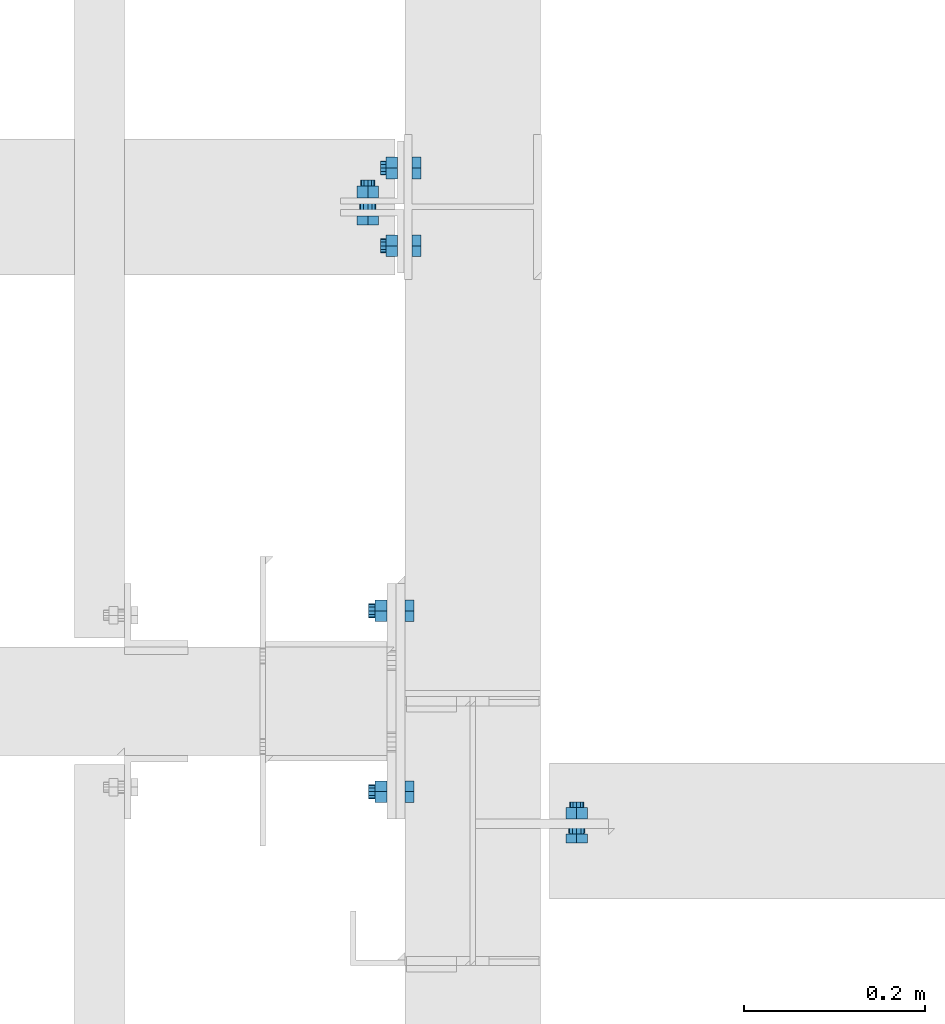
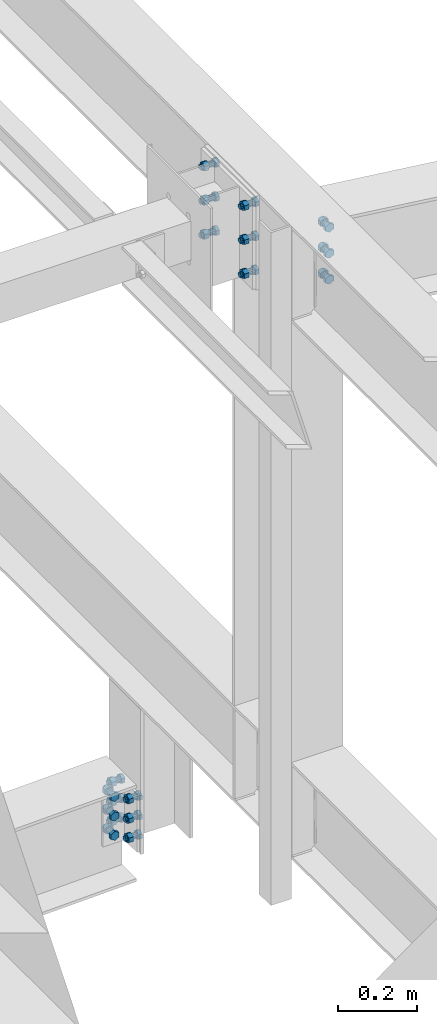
# One storey, part 34 of 3134: 5 mechanical fasteners, 4 elements without a shape of their own.
"""IFC2X3 building model written with IfcOpenShell, lengths in millimetres."""

import ifcopenshell
import ifcopenshell.guid

model = None  # the IFC model being written
_history = None  # IfcOwnerHistory: only IFC2X3 demands one
_inside = {}  # id of a spatial element -> (the spatial element, [elements in it])
_under = {}  # id of a project, library or spatial element -> (it, [spatial elements below it])
_declared = {}  # id of a project -> (the project, [libraries it declares])
_typed = {}  # id of a type object -> (the type object, [elements of that type])
_made_of = {}  # id of a material, layer set ... -> (it, [elements and type objects made of it])


def new_model(schema):
    """Start an empty IFC model of exactly this schema.

    Asked for "IFC4X3", IfcOpenShell would pick the latest addendum, in which some entities
    have other attributes; the version numbers below select the first issue.
    IFC2X3 requires an IfcOwnerHistory on every rooted entity: one is made here for all.
    """
    global model, _history
    if schema == "IFC4X3":
        model = ifcopenshell.file(schema_version=(4, 3, 0, 0))
    else:
        model = ifcopenshell.file(schema=schema)
    _inside.clear()
    _under.clear()
    _declared.clear()
    _typed.clear()
    _made_of.clear()
    _history = None
    if model.schema == "IFC2X3":
        org = make("IfcOrganization", Name="unknown")
        user = make(
            "IfcPersonAndOrganization",
            ThePerson=make("IfcPerson", FamilyName="unknown"),
            TheOrganization=org,
        )
        app = make(
            "IfcApplication",
            ApplicationDeveloper=org,
            Version="unknown",
            ApplicationFullName="unknown",
            ApplicationIdentifier="unknown",
        )
        _history = make(
            "IfcOwnerHistory",
            OwningUser=user,
            OwningApplication=app,
            ChangeAction="ADDED",
            CreationDate=0,
        )
    return model


def make(cls, **values):
    """One entity of the class cls with the attributes given. An attribute that is None is left unset."""
    return model.create_entity(
        cls, **{name: value for name, value in values.items() if value is not None}
    )


def rooted(cls, **values):
    """An entity with a GlobalId (a new one), such as an element, a storey or a relation."""
    return make(cls, GlobalId=ifcopenshell.guid.new(), OwnerHistory=_history, **values)


def si_unit(unit_type, name, prefix=None):
    """IfcSIUnit, for example si_unit("LENGTHUNIT", "METRE", prefix="MILLI")."""
    return make("IfcSIUnit", UnitType=unit_type, Prefix=prefix, Name=name)


def assignment(units):
    """IfcUnitAssignment: the units of a project."""
    return None if units is None else make("IfcUnitAssignment", Units=units)


def point(xyz):
    """IfcCartesianPoint."""
    return None if xyz is None else make("IfcCartesianPoint", Coordinates=xyz)


def direction(xyz):
    """IfcDirection."""
    return None if xyz is None else make("IfcDirection", DirectionRatios=xyz)


def frame(location, z_axis=None, x_axis=None):
    """IfcAxis2Placement3D, a coordinate frame: its origin and axes. An axis left out is left unset."""
    return make(
        "IfcAxis2Placement3D",
        Location=point(location),
        Axis=direction(z_axis),
        RefDirection=direction(x_axis),
    )


def origin_with_axes():
    """The frame at (0, 0, 0) with the z axis (0, 0, 1) and the x axis (1, 0, 0) written out."""
    return frame((0.0, 0.0, 0.0), z_axis=(0.0, 0.0, 1.0), x_axis=(1.0, 0.0, 0.0))


def place(relative_to, where):
    """IfcLocalPlacement: puts the frame where relative to a parent placement (None: the world)."""
    return make(
        "IfcLocalPlacement", PlacementRelTo=relative_to, RelativePlacement=where
    )


def context(
    kind, dimensions, precision=None, world=None, true_north=None, identifier=None
):
    """IfcGeometricRepresentationContext, for example the 3D "Model" context."""
    return make(
        "IfcGeometricRepresentationContext",
        ContextIdentifier=identifier,
        ContextType=kind,
        CoordinateSpaceDimension=dimensions,
        Precision=precision,
        WorldCoordinateSystem=world,
        TrueNorth=true_north,
    )


def subcontext(parent, identifier, kind, view, scale=None):
    """IfcGeometricRepresentationSubContext, for example "Body" below "Model"."""
    return make(
        "IfcGeometricRepresentationSubContext",
        ContextIdentifier=identifier,
        ContextType=kind,
        ParentContext=parent,
        TargetScale=scale,
        TargetView=view,
    )


def project(units=None, contexts=None):
    """IfcProject with its units and contexts."""
    return rooted(
        "IfcProject",
        Name="project",
        RepresentationContexts=contexts,
        UnitsInContext=assignment(units),
    )


def spatial(cls, under=None, at=None, **own):
    """A site, building, storey or space (cls), placed at a placement, below another one or the project."""
    s = rooted(cls, ObjectPlacement=at, **own)
    if under is not None:
        _under.setdefault(under.id(), (under, []))[1].append(s)
    return s


def faces_of(points, faces, orient=None, outer=None):
    """IfcFace entities. A face is a list of loops; a loop is a list of indices into points, from 0.

    orient and outer hold one flag for each loop. By default every Orientation is true, the
    first loop of a face is its IfcFaceOuterBound and the others are IfcFaceBound.
    """
    made = []
    for i, loops in enumerate(faces):
        bounds = []
        for j, loop in enumerate(loops):
            is_outer = j == 0 if outer is None else outer[i][j]
            bounds.append(
                make(
                    "IfcFaceOuterBound" if is_outer else "IfcFaceBound",
                    Bound=make("IfcPolyLoop", Polygon=[points[k] for k in loop]),
                    Orientation=True if orient is None else orient[i][j],
                )
            )
        made.append(make("IfcFace", Bounds=bounds))
    return made


def faceted_brep(points, faces, orient=None, outer=None, voids=None):
    """IfcFacetedBrep: a solid bounded by flat faces; with voids (closed shells), ...WithVoids."""
    shared = [point(p) for p in points]
    hull = make("IfcClosedShell", CfsFaces=faces_of(shared, faces, orient, outer))
    if voids is None:
        return make("IfcFacetedBrep", Outer=hull)
    return make(
        "IfcFacetedBrepWithVoids",
        Outer=hull,
        Voids=[
            make(cls, CfsFaces=faces_of(shared, fs, o, b)) for cls, fs, o, b in voids
        ],
    )


def shape(context_of_items, identifier, shape_type, items):
    """IfcShapeRepresentation: the items that make up one representation, for example the "Body"."""
    return make(
        "IfcShapeRepresentation",
        ContextOfItems=context_of_items,
        RepresentationIdentifier=identifier,
        RepresentationType=shape_type,
        Items=items,
    )


def source(mapping_origin, context_of_items, identifier, shape_type, items):
    """IfcRepresentationMap: a shape defined once, which mapped items show again and again."""
    return make(
        "IfcRepresentationMap",
        MappingOrigin=mapping_origin,
        MappedRepresentation=shape(context_of_items, identifier, shape_type, items),
    )


def transform(
    local_origin,
    x_axis=None,
    y_axis=None,
    z_axis=None,
    scale=None,
    scale2=None,
    scale3=None,
    uniform=True,
):
    """IfcCartesianTransformationOperator3D, or its non-uniform kind. x_axis, y_axis, z_axis: its Axis1, 2, 3."""
    if uniform:
        return make(
            "IfcCartesianTransformationOperator3D",
            Axis1=direction(x_axis),
            Axis2=direction(y_axis),
            LocalOrigin=point(local_origin),
            Scale=scale,
            Axis3=direction(z_axis),
        )
    return make(
        "IfcCartesianTransformationOperator3DnonUniform",
        Axis1=direction(x_axis),
        Axis2=direction(y_axis),
        LocalOrigin=point(local_origin),
        Scale=scale,
        Axis3=direction(z_axis),
        Scale2=scale2,
        Scale3=scale3,
    )


def mapped(mapping_source, mapping_target):
    """IfcMappedItem: shows the shape of a source again, moved by a transform."""
    return make(
        "IfcMappedItem", MappingSource=mapping_source, MappingTarget=mapping_target
    )


def material(Name=None, Category=None):
    """IfcMaterial."""
    return make("IfcMaterial", Name=Name, Category=Category)


def made_of(thing, what):
    """Note that an element or type object is made of a material, layer set ...; save() writes the relation."""
    if what is not None:
        _made_of.setdefault(what.id(), (what, []))[1].append(thing)
    return thing


def type_object(cls, material=None, **own):
    """A type object (cls), such as IfcWallType, which elements share."""
    return made_of(rooted(cls, **own), material)


def element(
    cls,
    number,
    at=None,
    inside=None,
    cuts=None,
    type_object=None,
    material=None,
    context=None,
    identifier="Body",
    shape_type=None,
    held_by="IfcProductDefinitionShape",
    body=None,
    shapes=None,
    **own,
):
    """One element of the class cls, such as IfcWall. Its Tag is "e" and its number.

    at: its placement. inside: the storey or other place that contains it. cuts: it is an
    opening in that element (IfcRelVoidsElement). A single representation is given by context,
    identifier, shape_type and body (its items); several are given by shapes. held_by: the class
    of the entity that holds the representations. save() writes the other relations.
    """
    e = rooted(cls, Tag="e%d" % number, ObjectPlacement=at, **own)
    if body is not None:
        shapes = [shape(context, identifier, shape_type, body)]
    if shapes is not None:
        e.Representation = make(held_by, Representations=shapes)
    if inside is not None:
        _inside.setdefault(inside.id(), (inside, []))[1].append(e)
    if cuts is not None:
        rooted(
            "IfcRelVoidsElement", RelatingBuildingElement=cuts, RelatedOpeningElement=e
        )
    if type_object is not None:
        _typed.setdefault(type_object.id(), (type_object, []))[1].append(e)
    return made_of(e, material)


def aggregate(whole, parts):
    """IfcRelAggregates: a whole, such as a stair, and the parts it consists of."""
    return rooted("IfcRelAggregates", RelatingObject=whole, RelatedObjects=parts)


def save(model, path):
    """Write the relations noted so far, then the file.

    IfcRelAggregates (storeys below a building ...), IfcRelContainedInSpatialStructure (elements
    in a storey), IfcRelDefinesByType, IfcRelAssociatesMaterial and IfcRelDeclares: one each for
    every whole, place, type object, material and project.
    """
    for whole, parts in _under.values():
        aggregate(whole, parts)
    for where, things in _inside.values():
        rooted(
            "IfcRelContainedInSpatialStructure",
            RelatedElements=things,
            RelatingStructure=where,
        )
    for kind, things in _typed.values():
        rooted("IfcRelDefinesByType", RelatedObjects=things, RelatingType=kind)
    for what, things in _made_of.values():
        rooted("IfcRelAssociatesMaterial", RelatedObjects=things, RelatingMaterial=what)
    for by, libraries in _declared.values():
        rooted("IfcRelDeclares", RelatingContext=by, RelatedDefinitions=libraries)
    model.write(path)


model = new_model("IFC2X3")

# Units and contexts
model_context = context("Model", 3, precision=1e-05, world=origin_with_axes())
body_context = subcontext(model_context, "Body", "Model", "MODEL_VIEW")
ifc_project = project(units=[si_unit("LENGTHUNIT", "METRE", prefix="MILLI"), si_unit("AREAUNIT", "SQUARE_METRE"), si_unit("VOLUMEUNIT", "CUBIC_METRE"), si_unit("MASSUNIT", "GRAM", prefix="KILO"), si_unit("TIMEUNIT", "SECOND"), si_unit("PLANEANGLEUNIT", "RADIAN"), si_unit("SOLIDANGLEUNIT", "STERADIAN"), si_unit("THERMODYNAMICTEMPERATUREUNIT", "DEGREE_CELSIUS"), si_unit("LUMINOUSINTENSITYUNIT", "LUMEN")], contexts=[model_context])

# Site, building, storey
site_placement = place(None, origin_with_axes())
site = spatial("IfcSite", under=ifc_project, at=site_placement, CompositionType="ELEMENT")
building_placement = place(site_placement, origin_with_axes())
building = spatial("IfcBuilding", under=site, at=building_placement, Name="Undefined", CompositionType="ELEMENT")
storey_placement = place(building_placement, origin_with_axes())
storey = spatial("IfcBuildingStorey", under=building, at=storey_placement, Name="Undefined", CompositionType="ELEMENT", Elevation=0.0)

# Assembly, mechanical fastener
assembly_1_placement = place(storey_placement, origin_with_axes())
assembly_1 = element("IfcElementAssembly", 1, at=assembly_1_placement, inside=storey, Name="300", AssemblyPlace="NOTDEFINED", PredefinedType="RIGID_FRAME")
ifc_material = material(Name="8.8")
mechanical_fastener_type = type_object("IfcMechanicalFastenerType", Name="Bolt assembly")
shared_shape_1 = source(origin_with_axes(), body_context, "Body", "Brep", [
    faceted_brep([(13.856406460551, -30.0, 0.0), (6.92820323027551, -30.0, 12.0), (-6.92820323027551, -30.0, 12.0), (-13.856406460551, -30.0, 1.69692038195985e-15), (-6.92820323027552, -30.0, -12.0), (6.9282032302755, -30.0, -12.0), (6.9282032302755, -20.0, -12.0), (-6.92820323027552, -20.0, -12.0), (-13.856406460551, -20.0, 1.69692038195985e-15), (-6.92820323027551, -20.0, 12.0), (6.92820323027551, -20.0, 12.0), (13.856406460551, -20.0, 0.0), (8.0, -20.0, 0.0), (6.92820323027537, -20.0, 4.00000000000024), (3.99999999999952, -20.0, 6.92820323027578), (-8.29068785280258e-13, -20.0, 8.0), (-4.00000000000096, -20.0, 6.92820323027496), (-6.9282032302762, -20.0, 3.99999999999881), (-8.0, -20.0, -1.65813757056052e-12), (-6.92820323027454, -20.0, -4.00000000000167), (-3.99999999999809, -20.0, -6.92820323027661), (2.47832457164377e-12, -20.0, -8.0), (4.00000000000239, -20.0, -6.92820323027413), (6.92820323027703, -20.0, -3.99999999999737), (6.92820323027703, 20.0, -3.99999999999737), (4.00000000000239, 20.0, -6.92820323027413), (2.47832457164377e-12, 20.0, -8.0), (-3.99999999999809, 20.0, -6.92820323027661), (-6.92820323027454, 20.0, -4.00000000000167), (-8.0, 20.0, -1.65813757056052e-12), (-6.9282032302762, 20.0, 3.99999999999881), (-4.00000000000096, 20.0, 6.92820323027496), (-8.29068785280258e-13, 20.0, 8.0), (3.99999999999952, 20.0, 6.92820323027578), (6.92820323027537, 20.0, 4.00000000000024), (8.0, 20.0, 0.0), (13.856406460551, 0.0, 0.0), (6.92820323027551, 0.0, 12.0), (-6.92820323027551, 0.0, 12.0), (-13.856406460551, 0.0, 1.69692038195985e-15), (-6.92820323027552, 0.0, -12.0), (6.9282032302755, 0.0, -12.0), (6.9282032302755, 12.9999996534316, -12.0), (-6.92820323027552, 12.9999996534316, -12.0), (-13.856406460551, 12.9999996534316, 1.69692038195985e-15), (-6.92820323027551, 12.9999996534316, 12.0), (6.92820323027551, 12.9999996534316, 12.0), (13.856406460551, 12.9999996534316, 0.0)], [[[0, 1, 2, 3, 4, 5]], [[6, 7, 8, 9, 10, 11]], [[0, 11, 10, 1]], [[1, 10, 9, 2]], [[2, 9, 8, 3]], [[3, 8, 7, 4]], [[4, 7, 6, 5]], [[5, 6, 11, 0]], [[12, 13, 14, 15, 16, 17, 18, 19, 20, 21, 22, 23]], [[24, 25, 26, 27, 28, 29, 30, 31, 32, 33, 34, 35]], [[12, 35, 34, 13]], [[13, 34, 33, 14]], [[14, 33, 32, 15]], [[15, 32, 31, 16]], [[16, 31, 30, 17]], [[17, 30, 29, 18]], [[18, 29, 28, 19]], [[19, 28, 27, 20]], [[20, 27, 26, 21]], [[21, 26, 25, 22]], [[22, 25, 24, 23]], [[23, 24, 35, 12]], [[36, 37, 38, 39, 40, 41]], [[42, 43, 44, 45, 46, 47]], [[36, 47, 46, 37]], [[37, 46, 45, 38]], [[38, 45, 44, 39]], [[39, 44, 43, 40]], [[40, 43, 42, 41]], [[41, 42, 47, 36]]]),
    faceted_brep([(9.0, -10.1000003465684, 0.0), (7.79422863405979, -10.1000003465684, 4.50000000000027), (4.49999999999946, -10.1000003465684, 7.79422863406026), (-9.3270238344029e-13, -10.1000003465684, 9.0), (-4.50000000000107, -10.1000003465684, 7.79422863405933), (-7.79422863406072, -10.1000003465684, 4.49999999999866), (-9.0, -10.1000003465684, -1.86540476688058e-12), (-7.79422863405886, -10.1000003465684, -4.50000000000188), (-4.49999999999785, -10.1000003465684, -7.79422863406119), (2.78811514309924e-12, -10.1000003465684, -9.0), (4.50000000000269, -10.1000003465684, -7.7942286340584), (7.79422863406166, -10.1000003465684, -4.49999999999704), (7.79422863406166, -3.46568413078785e-07, -4.49999999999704), (4.50000000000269, -3.46568413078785e-07, -7.7942286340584), (2.78811514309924e-12, -3.46568413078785e-07, -9.0), (-4.49999999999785, -3.46568413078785e-07, -7.79422863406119), (-7.79422863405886, -3.46568413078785e-07, -4.50000000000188), (-9.0, -3.46568413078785e-07, -1.86540476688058e-12), (-7.79422863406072, -3.46568413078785e-07, 4.49999999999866), (-4.50000000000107, -3.46568413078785e-07, 7.79422863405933), (-9.3270238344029e-13, -3.46568413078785e-07, 9.0), (4.49999999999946, -3.46568413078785e-07, 7.79422863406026), (7.79422863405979, -3.46568413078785e-07, 4.50000000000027), (9.0, -3.46568413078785e-07, 0.0), (9.0, -19.9, 0.0), (7.79422863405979, -19.9, 4.50000000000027), (4.49999999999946, -19.9, 7.79422863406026), (-9.3270238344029e-13, -19.9, 9.0), (-4.50000000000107, -19.9, 7.79422863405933), (-7.79422863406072, -19.9, 4.49999999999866), (-9.0, -19.9, -1.86540476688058e-12), (-7.79422863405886, -19.9, -4.50000000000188), (-4.49999999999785, -19.9, -7.79422863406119), (2.78811514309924e-12, -19.9, -9.0), (4.50000000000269, -19.9, -7.7942286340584), (7.79422863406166, -19.9, -4.49999999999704), (7.79422863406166, -9.89999997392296, -4.49999999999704), (4.50000000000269, -9.89999997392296, -7.7942286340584), (2.78811514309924e-12, -9.89999997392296, -9.0), (-4.49999999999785, -9.89999997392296, -7.79422863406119), (-7.79422863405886, -9.89999997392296, -4.50000000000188), (-9.0, -9.89999997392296, -1.86540476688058e-12), (-7.79422863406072, -9.89999997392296, 4.49999999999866), (-4.50000000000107, -9.89999997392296, 7.79422863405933), (-9.3270238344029e-13, -9.89999997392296, 9.0), (4.49999999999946, -9.89999997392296, 7.79422863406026), (7.79422863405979, -9.89999997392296, 4.50000000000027), (9.0, -9.89999997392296, 0.0)], [[[0, 1, 2, 3, 4, 5, 6, 7, 8, 9, 10, 11]], [[12, 13, 14, 15, 16, 17, 18, 19, 20, 21, 22, 23]], [[0, 23, 22, 1]], [[1, 22, 21, 2]], [[2, 21, 20, 3]], [[3, 20, 19, 4]], [[4, 19, 18, 5]], [[5, 18, 17, 6]], [[6, 17, 16, 7]], [[7, 16, 15, 8]], [[8, 15, 14, 9]], [[9, 14, 13, 10]], [[10, 13, 12, 11]], [[11, 12, 23, 0]], [[24, 25, 26, 27, 28, 29, 30, 31, 32, 33, 34, 35]], [[36, 37, 38, 39, 40, 41, 42, 43, 44, 45, 46, 47]], [[24, 47, 46, 25]], [[25, 46, 45, 26]], [[26, 45, 44, 27]], [[27, 44, 43, 28]], [[28, 43, 42, 29]], [[29, 42, 41, 30]], [[30, 41, 40, 31]], [[31, 40, 39, 32]], [[32, 39, 38, 33]], [[33, 38, 37, 34]], [[34, 37, 36, 35]], [[35, 36, 47, 24]]]),
])
mechanical_fastener_1_placement = place(assembly_1_placement, frame((20755.0, 12513.5019072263, 5846.5), z_axis=(0.0, 1.0, 0.0), x_axis=(0.0, 0.0, -1.0)))
mechanical_fastener_1 = element("IfcMechanicalFastener", 2, at=mechanical_fastener_1_placement, type_object=mechanical_fastener_type, material=ifc_material, Name="Bolt assembly", NominalDiameter=16.0, NominalLength=40.0, context=body_context, shape_type="MappedRepresentation", body=[
    mapped(shared_shape_1, transform((0.0, 0.0, -100.0))),
    mapped(shared_shape_1, transform((105.0, 0.0, -100.0))),
    mapped(shared_shape_1, transform((210.0, 0.0, -100.0))),
    mapped(shared_shape_1, transform((0.0, 0.0, 100.0))),
    mapped(shared_shape_1, transform((105.0, 0.0, 100.0))),
    mapped(shared_shape_1, transform((210.0, 0.0, 100.0))),
])
aggregate(assembly_1, [mechanical_fastener_1])

assembly_2_placement = place(storey_placement, origin_with_axes())
assembly_2 = element("IfcElementAssembly", 3, at=assembly_2_placement, inside=storey, Name="300", AssemblyPlace="NOTDEFINED", PredefinedType="RIGID_FRAME")
shared_shape_2 = source(origin_with_axes(), body_context, "Body", "Brep", [
    faceted_brep([(13.856406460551, -13.0499999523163, 0.0), (6.92820323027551, -13.0499999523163, 12.0), (-6.92820323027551, -13.0499999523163, 12.0), (-13.856406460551, -13.0499999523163, 1.69692038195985e-15), (-6.92820323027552, -13.0499999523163, -12.0), (6.9282032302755, -13.0499999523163, -12.0), (6.9282032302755, -3.04999995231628, -12.0), (-6.92820323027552, -3.04999995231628, -12.0), (-13.856406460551, -3.04999995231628, 1.69692038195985e-15), (-6.92820323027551, -3.04999995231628, 12.0), (6.92820323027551, -3.04999995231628, 12.0), (13.856406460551, -3.04999995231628, 0.0), (8.0, -3.04999995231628, 0.0), (6.92820323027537, -3.04999995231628, 4.00000000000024), (3.99999999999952, -3.04999995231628, 6.92820323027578), (-8.29068785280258e-13, -3.04999995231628, 8.0), (-4.00000000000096, -3.04999995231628, 6.92820323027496), (-6.9282032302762, -3.04999995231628, 3.99999999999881), (-8.0, -3.04999995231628, -1.65813757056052e-12), (-6.92820323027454, -3.04999995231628, -4.00000000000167), (-3.99999999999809, -3.04999995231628, -6.92820323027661), (2.47832457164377e-12, -3.04999995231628, -8.0), (4.00000000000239, -3.04999995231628, -6.92820323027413), (6.92820323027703, -3.04999995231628, -3.99999999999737), (6.92820323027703, 31.9500000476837, -3.99999999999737), (4.00000000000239, 31.9500000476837, -6.92820323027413), (2.47832457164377e-12, 31.9500000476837, -8.0), (-3.99999999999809, 31.9500000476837, -6.92820323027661), (-6.92820323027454, 31.9500000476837, -4.00000000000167), (-8.0, 31.9500000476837, -1.65813757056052e-12), (-6.9282032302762, 31.9500000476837, 3.99999999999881), (-4.00000000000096, 31.9500000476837, 6.92820323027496), (-8.29068785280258e-13, 31.9500000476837, 8.0), (3.99999999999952, 31.9500000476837, 6.92820323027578), (6.92820323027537, 31.9500000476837, 4.00000000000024), (8.0, 31.9500000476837, 0.0), (13.856406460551, 13.0500000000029, 0.0), (6.92820323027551, 13.0500000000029, 12.0), (-6.92820323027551, 13.0500000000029, 12.0), (-13.856406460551, 13.0500000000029, 1.69692038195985e-15), (-6.92820323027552, 13.0500000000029, -12.0), (6.9282032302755, 13.0500000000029, -12.0), (6.9282032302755, 26.0500000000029, -12.0), (-6.92820323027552, 26.0500000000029, -12.0), (-13.856406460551, 26.0500000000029, 1.69692038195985e-15), (-6.92820323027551, 26.0500000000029, 12.0), (6.92820323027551, 26.0500000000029, 12.0), (13.856406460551, 26.0500000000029, 0.0)], [[[0, 1, 2, 3, 4, 5]], [[6, 7, 8, 9, 10, 11]], [[0, 11, 10, 1]], [[1, 10, 9, 2]], [[2, 9, 8, 3]], [[3, 8, 7, 4]], [[4, 7, 6, 5]], [[5, 6, 11, 0]], [[12, 13, 14, 15, 16, 17, 18, 19, 20, 21, 22, 23]], [[24, 25, 26, 27, 28, 29, 30, 31, 32, 33, 34, 35]], [[12, 35, 34, 13]], [[13, 34, 33, 14]], [[14, 33, 32, 15]], [[15, 32, 31, 16]], [[16, 31, 30, 17]], [[17, 30, 29, 18]], [[18, 29, 28, 19]], [[19, 28, 27, 20]], [[20, 27, 26, 21]], [[21, 26, 25, 22]], [[22, 25, 24, 23]], [[23, 24, 35, 12]], [[36, 37, 38, 39, 40, 41]], [[42, 43, 44, 45, 46, 47]], [[36, 47, 46, 37]], [[37, 46, 45, 38]], [[38, 45, 44, 39]], [[39, 44, 43, 40]], [[40, 43, 42, 41]], [[41, 42, 47, 36]]]),
    faceted_brep([(9.0, 2.95000000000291, 0.0), (7.79422863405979, 2.95000000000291, 4.50000000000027), (4.49999999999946, 2.95000000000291, 7.79422863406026), (-9.3270238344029e-13, 2.95000000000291, 9.0), (-4.50000000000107, 2.95000000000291, 7.79422863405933), (-7.79422863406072, 2.95000000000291, 4.49999999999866), (-9.0, 2.95000000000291, -1.86540476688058e-12), (-7.79422863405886, 2.95000000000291, -4.50000000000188), (-4.49999999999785, 2.95000000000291, -7.79422863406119), (2.78811514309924e-12, 2.95000000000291, -9.0), (4.50000000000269, 2.95000000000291, -7.7942286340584), (7.79422863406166, 2.95000000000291, -4.49999999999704), (7.79422863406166, 13.0500000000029, -4.49999999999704), (4.50000000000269, 13.0500000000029, -7.7942286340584), (2.78811514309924e-12, 13.0500000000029, -9.0), (-4.49999999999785, 13.0500000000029, -7.79422863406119), (-7.79422863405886, 13.0500000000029, -4.50000000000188), (-9.0, 13.0500000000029, -1.86540476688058e-12), (-7.79422863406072, 13.0500000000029, 4.49999999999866), (-4.50000000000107, 13.0500000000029, 7.79422863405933), (-9.3270238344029e-13, 13.0500000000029, 9.0), (4.49999999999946, 13.0500000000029, 7.79422863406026), (7.79422863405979, 13.0500000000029, 4.50000000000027), (9.0, 13.0500000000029, 0.0), (9.0, -2.94999995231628, 0.0), (7.79422863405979, -2.94999995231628, 4.50000000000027), (4.49999999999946, -2.94999995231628, 7.79422863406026), (-9.3270238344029e-13, -2.94999995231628, 9.0), (-4.50000000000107, -2.94999995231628, 7.79422863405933), (-7.79422863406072, -2.94999995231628, 4.49999999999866), (-9.0, -2.94999995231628, -1.86540476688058e-12), (-7.79422863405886, -2.94999995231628, -4.50000000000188), (-4.49999999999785, -2.94999995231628, -7.79422863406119), (2.78811514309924e-12, -2.94999995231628, -9.0), (4.50000000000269, -2.94999995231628, -7.7942286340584), (7.79422863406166, -2.94999995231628, -4.49999999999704), (7.79422863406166, 3.14999995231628, -4.49999999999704), (4.50000000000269, 3.14999995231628, -7.7942286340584), (2.78811514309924e-12, 3.14999995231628, -9.0), (-4.49999999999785, 3.14999995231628, -7.79422863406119), (-7.79422863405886, 3.14999995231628, -4.50000000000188), (-9.0, 3.14999995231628, -1.86540476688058e-12), (-7.79422863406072, 3.14999995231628, 4.49999999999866), (-4.50000000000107, 3.14999995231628, 7.79422863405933), (-9.3270238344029e-13, 3.14999995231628, 9.0), (4.49999999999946, 3.14999995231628, 7.79422863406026), (7.79422863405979, 3.14999995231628, 4.50000000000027), (9.0, 3.14999995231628, 0.0)], [[[0, 1, 2, 3, 4, 5, 6, 7, 8, 9, 10, 11]], [[12, 13, 14, 15, 16, 17, 18, 19, 20, 21, 22, 23]], [[0, 23, 22, 1]], [[1, 22, 21, 2]], [[2, 21, 20, 3]], [[3, 20, 19, 4]], [[4, 19, 18, 5]], [[5, 18, 17, 6]], [[6, 17, 16, 7]], [[7, 16, 15, 8]], [[8, 15, 14, 9]], [[9, 14, 13, 10]], [[10, 13, 12, 11]], [[11, 12, 23, 0]], [[24, 25, 26, 27, 28, 29, 30, 31, 32, 33, 34, 35]], [[36, 37, 38, 39, 40, 41, 42, 43, 44, 45, 46, 47]], [[24, 47, 46, 25]], [[25, 46, 45, 26]], [[26, 45, 44, 27]], [[27, 44, 43, 28]], [[28, 43, 42, 29]], [[29, 42, 41, 30]], [[30, 41, 40, 31]], [[31, 40, 39, 32]], [[32, 39, 38, 33]], [[33, 38, 37, 34]], [[34, 37, 36, 35]], [[35, 36, 47, 24]]]),
])
mechanical_fastener_2_placement = place(assembly_2_placement, frame((20965.0, 12370.0, 5735.35014950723), z_axis=(1.0, 0.0, 0.0), x_axis=(0.0, 0.0, -1.0)))
mechanical_fastener_2 = element("IfcMechanicalFastener", 4, at=mechanical_fastener_2_placement, type_object=mechanical_fastener_type, material=ifc_material, Name="Bolt assembly", NominalDiameter=16.0, NominalLength=35.0, context=body_context, shape_type="MappedRepresentation", body=[
    mapped(shared_shape_2, transform((0.0, 0.0, 0.0))),
    mapped(shared_shape_2, transform((80.0, 0.0, 0.0))),
    mapped(shared_shape_2, transform((160.0, 0.0, 0.0))),
])
aggregate(assembly_2, [mechanical_fastener_2])

# Assembly, mechanical fasteners
assembly_3_placement = place(storey_placement, origin_with_axes())
assembly_3 = element("IfcElementAssembly", 5, at=assembly_3_placement, inside=storey, AssemblyPlace="NOTDEFINED", PredefinedType="RIGID_FRAME")
shared_shape_3 = source(origin_with_axes(), body_context, "Body", "Brep", [
    faceted_brep([(13.856406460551, -20.0400000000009, 0.0), (6.92820323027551, -20.0400000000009, 12.0), (-6.92820323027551, -20.0400000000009, 12.0), (-13.856406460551, -20.0400000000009, 1.69692038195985e-15), (-6.92820323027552, -20.0400000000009, -12.0), (6.9282032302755, -20.0400000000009, -12.0), (6.9282032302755, -10.0400000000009, -12.0), (-6.92820323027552, -10.0400000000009, -12.0), (-13.856406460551, -10.0400000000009, 1.69692038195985e-15), (-6.92820323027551, -10.0400000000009, 12.0), (6.92820323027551, -10.0400000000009, 12.0), (13.856406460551, -10.0400000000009, 0.0), (8.0, -10.0400000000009, 0.0), (6.92820323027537, -10.0400000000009, 4.00000000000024), (3.99999999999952, -10.0400000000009, 6.92820323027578), (-8.29068785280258e-13, -10.0400000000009, 8.0), (-4.00000000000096, -10.0400000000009, 6.92820323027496), (-6.9282032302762, -10.0400000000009, 3.99999999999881), (-8.0, -10.0400000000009, -1.65813757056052e-12), (-6.92820323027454, -10.0400000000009, -4.00000000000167), (-3.99999999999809, -10.0400000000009, -6.92820323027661), (2.47832457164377e-12, -10.0400000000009, -8.0), (4.00000000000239, -10.0400000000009, -6.92820323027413), (6.92820323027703, -10.0400000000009, -3.99999999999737), (6.92820323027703, 29.9599999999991, -3.99999999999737), (4.00000000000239, 29.9599999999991, -6.92820323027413), (2.47832457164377e-12, 29.9599999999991, -8.0), (-3.99999999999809, 29.9599999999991, -6.92820323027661), (-6.92820323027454, 29.9599999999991, -4.00000000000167), (-8.0, 29.9599999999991, -1.65813757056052e-12), (-6.9282032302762, 29.9599999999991, 3.99999999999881), (-4.00000000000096, 29.9599999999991, 6.92820323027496), (-8.29068785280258e-13, 29.9599999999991, 8.0), (3.99999999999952, 29.9599999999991, 6.92820323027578), (6.92820323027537, 29.9599999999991, 4.00000000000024), (8.0, 29.9599999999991, 0.0), (13.856406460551, 10.0400000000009, 0.0), (6.92820323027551, 10.0400000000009, 12.0), (-6.92820323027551, 10.0400000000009, 12.0), (-13.856406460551, 10.0400000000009, 1.69692038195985e-15), (-6.92820323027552, 10.0400000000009, -12.0), (6.9282032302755, 10.0400000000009, -12.0), (6.9282032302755, 23.0400000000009, -12.0), (-6.92820323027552, 23.0400000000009, -12.0), (-13.856406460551, 23.0400000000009, 1.69692038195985e-15), (-6.92820323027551, 23.0400000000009, 12.0), (6.92820323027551, 23.0400000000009, 12.0), (13.856406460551, 23.0400000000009, 0.0)], [[[0, 1, 2, 3, 4, 5]], [[6, 7, 8, 9, 10, 11]], [[0, 11, 10, 1]], [[1, 10, 9, 2]], [[2, 9, 8, 3]], [[3, 8, 7, 4]], [[4, 7, 6, 5]], [[5, 6, 11, 0]], [[12, 13, 14, 15, 16, 17, 18, 19, 20, 21, 22, 23]], [[24, 25, 26, 27, 28, 29, 30, 31, 32, 33, 34, 35]], [[12, 35, 34, 13]], [[13, 34, 33, 14]], [[14, 33, 32, 15]], [[15, 32, 31, 16]], [[16, 31, 30, 17]], [[17, 30, 29, 18]], [[18, 29, 28, 19]], [[19, 28, 27, 20]], [[20, 27, 26, 21]], [[21, 26, 25, 22]], [[22, 25, 24, 23]], [[23, 24, 35, 12]], [[36, 37, 38, 39, 40, 41]], [[42, 43, 44, 45, 46, 47]], [[36, 47, 46, 37]], [[37, 46, 45, 38]], [[38, 45, 44, 39]], [[39, 44, 43, 40]], [[40, 43, 42, 41]], [[41, 42, 47, 36]]]),
    faceted_brep([(9.0, -3.04999995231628, 0.0), (7.79422863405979, -3.04999995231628, 4.50000000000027), (4.49999999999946, -3.04999995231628, 7.79422863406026), (-9.3270238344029e-13, -3.04999995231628, 9.0), (-4.50000000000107, -3.04999995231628, 7.79422863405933), (-7.79422863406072, -3.04999995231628, 4.49999999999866), (-9.0, -3.04999995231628, -1.86540476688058e-12), (-7.79422863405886, -3.04999995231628, -4.50000000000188), (-4.49999999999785, -3.04999995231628, -7.79422863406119), (2.78811514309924e-12, -3.04999995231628, -9.0), (4.50000000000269, -3.04999995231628, -7.7942286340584), (7.79422863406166, -3.04999995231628, -4.49999999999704), (7.79422863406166, 3.04999995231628, -4.49999999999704), (4.50000000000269, 3.04999995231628, -7.7942286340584), (2.78811514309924e-12, 3.04999995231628, -9.0), (-4.49999999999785, 3.04999995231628, -7.79422863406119), (-7.79422863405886, 3.04999995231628, -4.50000000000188), (-9.0, 3.04999995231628, -1.86540476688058e-12), (-7.79422863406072, 3.04999995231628, 4.49999999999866), (-4.50000000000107, 3.04999995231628, 7.79422863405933), (-9.3270238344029e-13, 3.04999995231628, 9.0), (4.49999999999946, 3.04999995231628, 7.79422863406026), (7.79422863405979, 3.04999995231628, 4.50000000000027), (9.0, 3.04999995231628, 0.0), (9.0, -9.94000000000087, 0.0), (7.79422863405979, -9.94000000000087, 4.50000000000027), (4.49999999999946, -9.94000000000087, 7.79422863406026), (-9.3270238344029e-13, -9.94000000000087, 9.0), (-4.50000000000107, -9.94000000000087, 7.79422863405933), (-7.79422863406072, -9.94000000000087, 4.49999999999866), (-9.0, -9.94000000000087, -1.86540476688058e-12), (-7.79422863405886, -9.94000000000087, -4.50000000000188), (-4.49999999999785, -9.94000000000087, -7.79422863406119), (2.78811514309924e-12, -9.94000000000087, -9.0), (4.50000000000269, -9.94000000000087, -7.7942286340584), (7.79422863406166, -9.94000000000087, -4.49999999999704), (7.79422863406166, -2.94000000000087, -4.49999999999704), (4.50000000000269, -2.94000000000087, -7.7942286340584), (2.78811514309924e-12, -2.94000000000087, -9.0), (-4.49999999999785, -2.94000000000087, -7.79422863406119), (-7.79422863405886, -2.94000000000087, -4.50000000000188), (-9.0, -2.94000000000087, -1.86540476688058e-12), (-7.79422863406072, -2.94000000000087, 4.49999999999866), (-4.50000000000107, -2.94000000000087, 7.79422863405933), (-9.3270238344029e-13, -2.94000000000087, 9.0), (4.49999999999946, -2.94000000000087, 7.79422863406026), (7.79422863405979, -2.94000000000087, 4.50000000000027), (9.0, -2.94000000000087, 0.0), (9.0, 2.94000000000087, 0.0), (7.79422863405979, 2.94000000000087, 4.50000000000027), (4.49999999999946, 2.94000000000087, 7.79422863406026), (-9.3270238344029e-13, 2.94000000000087, 9.0), (-4.50000000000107, 2.94000000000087, 7.79422863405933), (-7.79422863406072, 2.94000000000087, 4.49999999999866), (-9.0, 2.94000000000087, -1.86540476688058e-12), (-7.79422863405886, 2.94000000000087, -4.50000000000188), (-4.49999999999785, 2.94000000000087, -7.79422863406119), (2.78811514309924e-12, 2.94000000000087, -9.0), (4.50000000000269, 2.94000000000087, -7.7942286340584), (7.79422863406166, 2.94000000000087, -4.49999999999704), (7.79422863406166, 10.0400000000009, -4.49999999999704), (4.50000000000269, 10.0400000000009, -7.7942286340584), (2.78811514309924e-12, 10.0400000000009, -9.0), (-4.49999999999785, 10.0400000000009, -7.79422863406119), (-7.79422863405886, 10.0400000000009, -4.50000000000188), (-9.0, 10.0400000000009, -1.86540476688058e-12), (-7.79422863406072, 10.0400000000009, 4.49999999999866), (-4.50000000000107, 10.0400000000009, 7.79422863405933), (-9.3270238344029e-13, 10.0400000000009, 9.0), (4.49999999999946, 10.0400000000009, 7.79422863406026), (7.79422863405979, 10.0400000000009, 4.50000000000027), (9.0, 10.0400000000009, 0.0)], [[[0, 1, 2, 3, 4, 5, 6, 7, 8, 9, 10, 11]], [[12, 13, 14, 15, 16, 17, 18, 19, 20, 21, 22, 23]], [[0, 23, 22, 1]], [[1, 22, 21, 2]], [[2, 21, 20, 3]], [[3, 20, 19, 4]], [[4, 19, 18, 5]], [[5, 18, 17, 6]], [[6, 17, 16, 7]], [[7, 16, 15, 8]], [[8, 15, 14, 9]], [[9, 14, 13, 10]], [[10, 13, 12, 11]], [[11, 12, 23, 0]], [[24, 25, 26, 27, 28, 29, 30, 31, 32, 33, 34, 35]], [[36, 37, 38, 39, 40, 41, 42, 43, 44, 45, 46, 47]], [[24, 47, 46, 25]], [[25, 46, 45, 26]], [[26, 45, 44, 27]], [[27, 44, 43, 28]], [[28, 43, 42, 29]], [[29, 42, 41, 30]], [[30, 41, 40, 31]], [[31, 40, 39, 32]], [[32, 39, 38, 33]], [[33, 38, 37, 34]], [[34, 37, 36, 35]], [[35, 36, 47, 24]], [[48, 49, 50, 51, 52, 53, 54, 55, 56, 57, 58, 59]], [[60, 61, 62, 63, 64, 65, 66, 67, 68, 69, 70, 71]], [[48, 71, 70, 49]], [[49, 70, 69, 50]], [[50, 69, 68, 51]], [[51, 68, 67, 52]], [[52, 67, 66, 53]], [[53, 66, 65, 54]], [[54, 65, 64, 55]], [[55, 64, 63, 56]], [[56, 63, 62, 57]], [[57, 62, 61, 58]], [[58, 61, 60, 59]], [[59, 60, 71, 48]]]),
])
mechanical_fastener_3_placement = place(assembly_3_placement, frame((20734.0000000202, 13060.0, 3648.83272487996), z_axis=(1.0, 0.0, 0.0), x_axis=(0.0, 0.0, -1.0)))
mechanical_fastener_3 = element("IfcMechanicalFastener", 6, at=mechanical_fastener_3_placement, type_object=mechanical_fastener_type, material=ifc_material, Name="Bolt assembly", NominalDiameter=16.0, NominalLength=40.0, context=body_context, shape_type="MappedRepresentation", body=[
    mapped(shared_shape_3, transform((0.0, 0.0, 0.0))),
    mapped(shared_shape_3, transform((59.9999999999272, 0.0, 5.40239852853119e-10))),
    mapped(shared_shape_3, transform((120.0, 0.0, 0.0))),
])
shared_shape_4 = source(origin_with_axes(), body_context, "Body", "Brep", [
    faceted_brep([(13.856406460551, -19.0, 0.0), (6.92820323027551, -19.0, 12.0), (-6.92820323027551, -19.0, 12.0), (-13.856406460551, -19.0, 1.69692038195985e-15), (-6.92820323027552, -19.0, -12.0), (6.9282032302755, -19.0, -12.0), (6.9282032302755, -9.0, -12.0), (-6.92820323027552, -9.0, -12.0), (-13.856406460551, -9.0, 1.69692038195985e-15), (-6.92820323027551, -9.0, 12.0), (6.92820323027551, -9.0, 12.0), (13.856406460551, -9.0, 0.0), (8.0, -9.0, 0.0), (6.92820323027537, -9.0, 4.00000000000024), (3.99999999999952, -9.0, 6.92820323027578), (-8.29068785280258e-13, -9.0, 8.0), (-4.00000000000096, -9.0, 6.92820323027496), (-6.9282032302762, -9.0, 3.99999999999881), (-8.0, -9.0, -1.65813757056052e-12), (-6.92820323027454, -9.0, -4.00000000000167), (-3.99999999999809, -9.0, -6.92820323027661), (2.47832457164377e-12, -9.0, -8.0), (4.00000000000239, -9.0, -6.92820323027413), (6.92820323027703, -9.0, -3.99999999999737), (6.92820323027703, 26.0, -3.99999999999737), (4.00000000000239, 26.0, -6.92820323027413), (2.47832457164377e-12, 26.0, -8.0), (-3.99999999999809, 26.0, -6.92820323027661), (-6.92820323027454, 26.0, -4.00000000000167), (-8.0, 26.0, -1.65813757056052e-12), (-6.9282032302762, 26.0, 3.99999999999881), (-4.00000000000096, 26.0, 6.92820323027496), (-8.29068785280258e-13, 26.0, 8.0), (3.99999999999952, 26.0, 6.92820323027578), (6.92820323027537, 26.0, 4.00000000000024), (8.0, 26.0, 0.0), (13.856406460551, 7.0, 0.0), (6.92820323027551, 7.0, 12.0), (-6.92820323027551, 7.0, 12.0), (-13.856406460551, 7.0, 1.69692038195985e-15), (-6.92820323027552, 7.0, -12.0), (6.9282032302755, 7.0, -12.0), (6.9282032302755, 20.0, -12.0), (-6.92820323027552, 20.0, -12.0), (-13.856406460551, 20.0, 1.69692038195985e-15), (-6.92820323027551, 20.0, 12.0), (6.92820323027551, 20.0, 12.0), (13.856406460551, 20.0, 0.0)], [[[0, 1, 2, 3, 4, 5]], [[6, 7, 8, 9, 10, 11]], [[0, 11, 10, 1]], [[1, 10, 9, 2]], [[2, 9, 8, 3]], [[3, 8, 7, 4]], [[4, 7, 6, 5]], [[5, 6, 11, 0]], [[12, 13, 14, 15, 16, 17, 18, 19, 20, 21, 22, 23]], [[24, 25, 26, 27, 28, 29, 30, 31, 32, 33, 34, 35]], [[12, 35, 34, 13]], [[13, 34, 33, 14]], [[14, 33, 32, 15]], [[15, 32, 31, 16]], [[16, 31, 30, 17]], [[17, 30, 29, 18]], [[18, 29, 28, 19]], [[19, 28, 27, 20]], [[20, 27, 26, 21]], [[21, 26, 25, 22]], [[22, 25, 24, 23]], [[23, 24, 35, 12]], [[36, 37, 38, 39, 40, 41]], [[42, 43, 44, 45, 46, 47]], [[36, 47, 46, 37]], [[37, 46, 45, 38]], [[38, 45, 44, 39]], [[39, 44, 43, 40]], [[40, 43, 42, 41]], [[41, 42, 47, 36]]]),
    faceted_brep([(9.0, -8.9, 0.0), (7.79422863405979, -8.9, 4.50000000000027), (4.49999999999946, -8.9, 7.79422863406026), (-9.3270238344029e-13, -8.9, 9.0), (-4.50000000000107, -8.9, 7.79422863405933), (-7.79422863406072, -8.9, 4.49999999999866), (-9.0, -8.9, -1.86540476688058e-12), (-7.79422863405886, -8.9, -4.50000000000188), (-4.49999999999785, -8.9, -7.79422863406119), (2.78811514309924e-12, -8.9, -9.0), (4.50000000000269, -8.9, -7.7942286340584), (7.79422863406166, -8.9, -4.49999999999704), (7.79422863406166, 0.100000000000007, -4.49999999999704), (4.50000000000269, 0.100000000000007, -7.7942286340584), (2.78811514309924e-12, 0.100000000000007, -9.0), (-4.49999999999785, 0.100000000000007, -7.79422863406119), (-7.79422863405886, 0.100000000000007, -4.50000000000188), (-9.0, 0.100000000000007, -1.86540476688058e-12), (-7.79422863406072, 0.100000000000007, 4.49999999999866), (-4.50000000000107, 0.100000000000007, 7.79422863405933), (-9.3270238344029e-13, 0.100000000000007, 9.0), (4.49999999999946, 0.100000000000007, 7.79422863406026), (7.79422863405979, 0.100000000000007, 4.50000000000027), (9.0, 0.100000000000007, 0.0), (9.0, -0.1, 0.0), (7.79422863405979, -0.1, 4.50000000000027), (4.49999999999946, -0.1, 7.79422863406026), (-9.3270238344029e-13, -0.1, 9.0), (-4.50000000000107, -0.1, 7.79422863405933), (-7.79422863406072, -0.1, 4.49999999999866), (-9.0, -0.1, -1.86540476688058e-12), (-7.79422863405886, -0.1, -4.50000000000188), (-4.49999999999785, -0.1, -7.79422863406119), (2.78811514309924e-12, -0.1, -9.0), (4.50000000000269, -0.1, -7.7942286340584), (7.79422863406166, -0.1, -4.49999999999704), (7.79422863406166, 7.0, -4.49999999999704), (4.50000000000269, 7.0, -7.7942286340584), (2.78811514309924e-12, 7.0, -9.0), (-4.49999999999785, 7.0, -7.79422863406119), (-7.79422863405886, 7.0, -4.50000000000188), (-9.0, 7.0, -1.86540476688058e-12), (-7.79422863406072, 7.0, 4.49999999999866), (-4.50000000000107, 7.0, 7.79422863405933), (-9.3270238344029e-13, 7.0, 9.0), (4.49999999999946, 7.0, 7.79422863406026), (7.79422863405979, 7.0, 4.50000000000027), (9.0, 7.0, 0.0)], [[[0, 1, 2, 3, 4, 5, 6, 7, 8, 9, 10, 11]], [[12, 13, 14, 15, 16, 17, 18, 19, 20, 21, 22, 23]], [[0, 23, 22, 1]], [[1, 22, 21, 2]], [[2, 21, 20, 3]], [[3, 20, 19, 4]], [[4, 19, 18, 5]], [[5, 18, 17, 6]], [[6, 17, 16, 7]], [[7, 16, 15, 8]], [[8, 15, 14, 9]], [[9, 14, 13, 10]], [[10, 13, 12, 11]], [[11, 12, 23, 0]], [[24, 25, 26, 27, 28, 29, 30, 31, 32, 33, 34, 35]], [[36, 37, 38, 39, 40, 41, 42, 43, 44, 45, 46, 47]], [[24, 47, 46, 25]], [[25, 46, 45, 26]], [[26, 45, 44, 27]], [[27, 44, 43, 28]], [[28, 43, 42, 29]], [[29, 42, 41, 30]], [[30, 41, 40, 31]], [[31, 40, 39, 32]], [[32, 39, 38, 33]], [[33, 38, 37, 34]], [[34, 37, 36, 35]], [[35, 36, 47, 24]]]),
])
mechanical_fastener_4_placement = place(assembly_3_placement, frame((20774.0000000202, 13016.96, 3648.83272487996), z_axis=(0.0, 1.0, 0.0), x_axis=(0.0, 0.0, -1.0)))
mechanical_fastener_4 = element("IfcMechanicalFastener", 7, at=mechanical_fastener_4_placement, type_object=mechanical_fastener_type, material=ifc_material, Name="Bolt assembly", NominalDiameter=16.0, NominalLength=35.0, context=body_context, shape_type="MappedRepresentation", body=[
    mapped(shared_shape_4, transform((0.0, 0.0, 0.0))),
    mapped(shared_shape_4, transform((59.9999999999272, 0.0, 5.40239852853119e-10))),
    mapped(shared_shape_4, transform((120.0, 0.0, 0.0))),
])
aggregate(assembly_3, [mechanical_fastener_3, mechanical_fastener_4])

# Assembly, mechanical fastener
assembly_4_placement = place(storey_placement, origin_with_axes())
assembly_4 = element("IfcElementAssembly", 8, at=assembly_4_placement, inside=storey, AssemblyPlace="NOTDEFINED", PredefinedType="RIGID_FRAME")
mechanical_fastener_5_placement = place(assembly_4_placement, frame((20774.0000000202, 13103.04, 3648.83272487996), z_axis=(0.0, 1.0, 0.0), x_axis=(0.0, 0.0, -1.0)))
mechanical_fastener_5 = element("IfcMechanicalFastener", 9, at=mechanical_fastener_5_placement, type_object=mechanical_fastener_type, material=ifc_material, Name="Bolt assembly", NominalDiameter=16.0, NominalLength=35.0, context=body_context, shape_type="MappedRepresentation", body=[
    mapped(shared_shape_4, transform((0.0, 0.0, 0.0))),
    mapped(shared_shape_4, transform((59.9999999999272, 0.0, 5.40239852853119e-10))),
    mapped(shared_shape_4, transform((120.0, 0.0, 0.0))),
])
aggregate(assembly_4, [mechanical_fastener_5])

save(model, "model.ifc")
